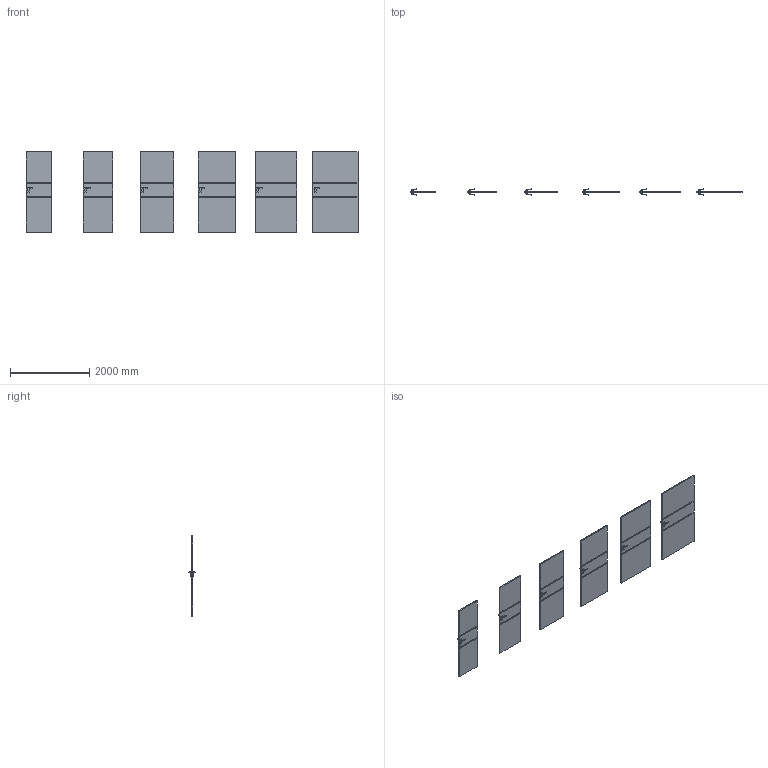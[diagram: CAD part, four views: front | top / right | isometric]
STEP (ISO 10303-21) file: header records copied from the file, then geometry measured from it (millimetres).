
FILE_DESCRIPTION(/* description */ (''),/* implementation_level */ '2;1');
FILE_NAME(/* name */ '049689_B_2-Skrzydło VECTOR C_ polska norma _PN__ odwrotna przylga..stp',/* time_stamp */ '2024-02-20T11:31:16+01:00',/* author */ (''),/* organization */ (''),/* preprocessor_version */ 'ST-DEVELOPER v16',/* originating_system */ 'SIEMENS PLM Software NX 11.0',/* authorisation */ '');
FILE_SCHEMA (('AUTOMOTIVE_DESIGN { 1 0 10303 214 3 1 1 1 }'));
Length unit declared in the file: millimetre
Products named in the file (1): bkni63CC6E915gbm
Bounding box: 8389 x 153.27 x 2027 mm (x, y, z)
Volume: 421819153.5 mm3; surface area: 23350445.3 mm2
Topology: 30 solids, 30 shells, 1485 faces, 3720 edges, 2178 vertices
Faces by surface type: plane 669, cylinder 456, bspline 192, sphere 168
Entity records: 49636 total; most frequent: CARTESIAN_POINT 15640, ORIENTED_EDGE 7104, DIRECTION 6902, EDGE_CURVE 3552, AXIS2_PLACEMENT_3D 2416, VERTEX_POINT 2178, LINE 2070, VECTOR 2070
